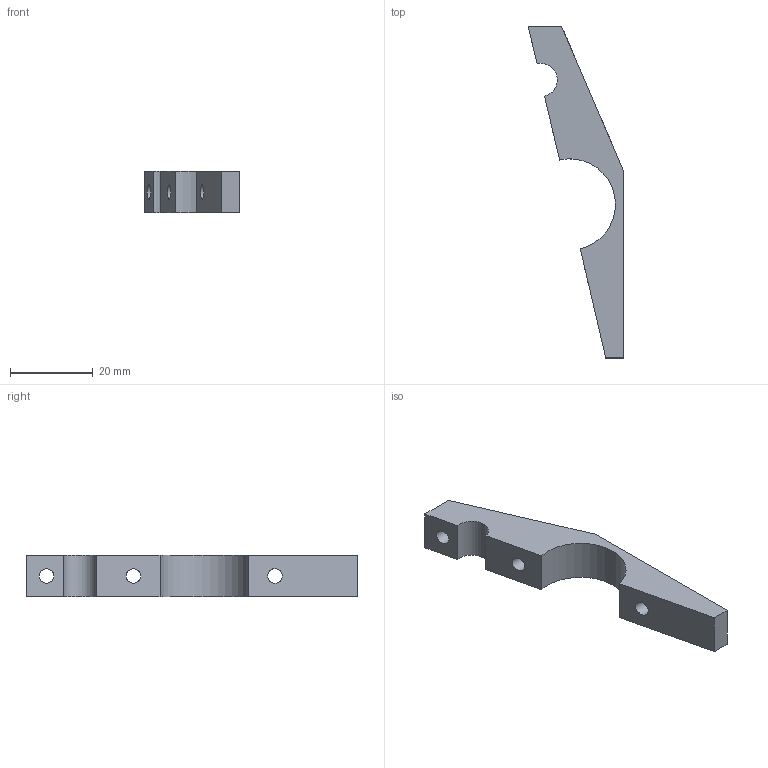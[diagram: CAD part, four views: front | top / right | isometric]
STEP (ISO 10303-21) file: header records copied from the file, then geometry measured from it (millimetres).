
FILE_DESCRIPTION(/* description */ (''),/* implementation_level */ '2;1');
FILE_NAME(/* name */ 'Z - FL Top Clamp v1.step',/* time_stamp */ '2023-03-23T06:43:22-06:00',/* author */ (''),/* organization */ (''),/* preprocessor_version */ 'ST-DEVELOPER v19.2',/* originating_system */ 'Autodesk Translation Framework v11.17.0.187',/* authorisation */ '');
FILE_SCHEMA (('AUTOMOTIVE_DESIGN { 1 0 10303 214 3 1 1 }'));
Length unit declared in the file: millimetre
Products named in the file (2): Z - FL Top Clamp; FL Top 2
Assembly tree (1 placements, depth 2):
  Z - FL Top Clamp
    FL Top 2
Bounding box: 23.03 x 80 x 10 mm (x, y, z)
Volume: 5502.6 mm3; surface area: 3606.1 mm2
Topology: 1 solids, 1 shells, 20 faces, 45 edges, 30 vertices
Faces by surface type: plane 12, cylinder 8
Full cylindrical faces by diameter (mm): 3.5 x3, 7 x3
Entity records: 637 total; most frequent: DIRECTION 107, CARTESIAN_POINT 98, ORIENTED_EDGE 90, EDGE_CURVE 45, AXIS2_PLACEMENT_3D 39, VERTEX_POINT 30, EDGE_LOOP 29, LINE 29
